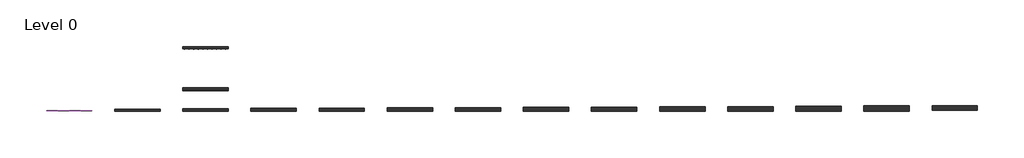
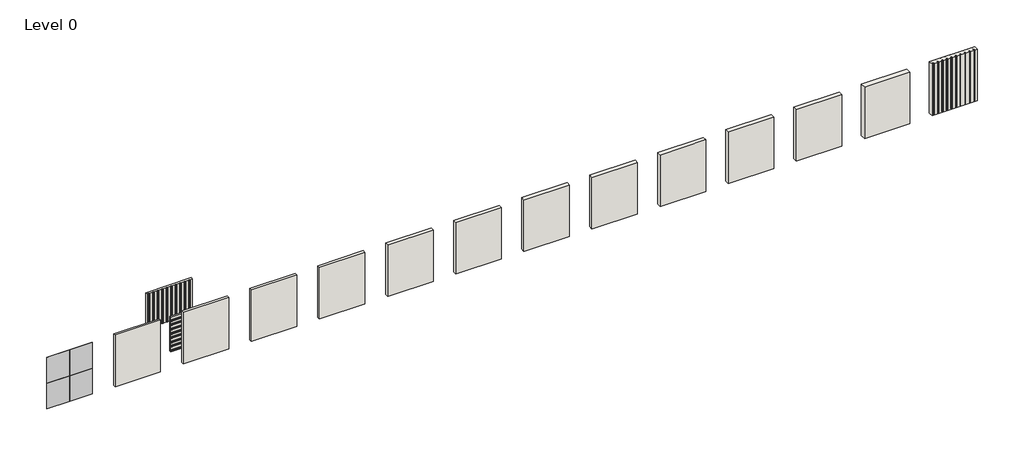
# One storey, incomplete: 15 walls, 4 fasteners, 4 plates.
"""IFC4 building model written with IfcOpenShell, lengths in millimetres."""

from ifc_helpers import new_model, si_unit, origin, origin_with_axes, place, context, project, spatial, polyline, outline, extrude, transform, mapped, element, save
from components import fastener_0524ba7f, fastener_f5cca177, fastener_05b20238, fastener_f3fe0590, fastener_85142412, fastener_c5e04b51, fastener_aac90bd3, fastener_4e99c733, fastener_e6e345ec, fastener_c6fd529a, fastener_6fa0a45e, fastener_47d68e06, metal_stud_substrate_e28d9b51, system_panel_glazed_ae204111

model = new_model("IFC4")

# Units and contexts
model_context = context("Model", 3, world=origin())
ifc_project = project(units=[si_unit("LENGTHUNIT", "METRE", prefix="MILLI")], contexts=[model_context])

# Site, building, storey
site = spatial("IfcSite", under=ifc_project)
building = spatial("IfcBuilding", under=site)
storey = spatial("IfcBuildingStorey", under=building, Name="Level 0", Elevation=0.0)

# Fasteners
placement = place(None, origin())
fastener_shape = fastener_0524ba7f(model_context)
fastener_2_shape = fastener_f5cca177(model_context)
fastener_3_shape = fastener_05b20238(model_context)
fastener_4_shape = fastener_f3fe0590(model_context)
element("IfcFastener", 1, ObjectType="Structural-Supporting-Components_Advanced-Architectural-Products_GreenGirt-Optima-CMH-System : GreenGirt Optima CMH 1.5\"", at=placement, inside=storey, context=model_context, shape_type="MappedRepresentation", body=[
    mapped(fastener_shape, transform((-9509.4866144, 8389.6836599, 0.0), x_axis=(1.0, 0.0, 0.0), y_axis=(0.0, 1.0, 0.0), z_axis=(0.0, 0.0, 1.0))),
    mapped(fastener_2_shape, transform((-9509.4866144, 8389.6836599, 0.0), x_axis=(1.0, 0.0, 0.0), y_axis=(0.0, 1.0, 0.0), z_axis=(0.0, 0.0, 1.0))),
    mapped(fastener_3_shape, transform((-9509.4866144, 8389.6836599, 0.0), x_axis=(1.0, 0.0, 0.0), y_axis=(0.0, 1.0, 0.0), z_axis=(0.0, 0.0, 1.0))),
    mapped(fastener_4_shape, transform((-9509.4866144, 8389.6836599, 0.0), x_axis=(1.0, 0.0, 0.0), y_axis=(0.0, 1.0, 0.0), z_axis=(0.0, 0.0, 1.0))),
])
fastener_5_shape = fastener_85142412(model_context)
fastener_6_shape = fastener_c5e04b51(model_context)
fastener_7_shape = fastener_aac90bd3(model_context)
fastener_8_shape = fastener_4e99c733(model_context)
element("IfcFastener", 2, ObjectType="Structural-Supporting-Components_Advanced-Architectural-Products_GreenGirt-Optima-CMH-System : GreenGirt Optima CMH 1.5\"", at=placement, inside=storey, context=model_context, shape_type="MappedRepresentation", body=[
    mapped(fastener_5_shape, transform((-9509.4866144, 10701.0836599, 0.0), x_axis=(1.0, 0.0, 0.0), y_axis=(0.0, 1.0, 0.0), z_axis=(0.0, 0.0, 1.0))),
    mapped(fastener_6_shape, transform((-9509.4866144, 10701.0836599, 0.0), x_axis=(1.0, 0.0, 0.0), y_axis=(0.0, 1.0, 0.0), z_axis=(0.0, 0.0, 1.0))),
    mapped(fastener_7_shape, transform((-9509.4866144, 10701.0836599, 0.0), x_axis=(1.0, 0.0, 0.0), y_axis=(0.0, 1.0, 0.0), z_axis=(0.0, 0.0, 1.0))),
    mapped(fastener_8_shape, transform((-9509.4866144, 10701.0836599, 0.0), x_axis=(1.0, 0.0, 0.0), y_axis=(0.0, 1.0, 0.0), z_axis=(0.0, 0.0, 1.0))),
])
fastener_9_shape = fastener_e6e345ec(model_context)
fastener_10_shape = fastener_c6fd529a(model_context)
fastener_11_shape = fastener_6fa0a45e(model_context)
fastener_12_shape = fastener_47d68e06(model_context)
element("IfcFastener", 3, ObjectType="Structural-Supporting-Components_Advanced-Architectural-Products_GreenGirt-Optima-CMH-System : GreenGirt Optima CMH 1.5\"", at=placement, inside=storey, context=model_context, shape_type="MappedRepresentation", body=[
    mapped(fastener_9_shape, transform((32399.3543883, 7302.9336599, 0.0), x_axis=(1.0, 0.0, 0.0), y_axis=(0.0, 1.0, 0.0), z_axis=(0.0, 0.0, 1.0))),
    mapped(fastener_10_shape, transform((32399.3543883, 7302.9336599, 0.0), x_axis=(1.0, 0.0, 0.0), y_axis=(0.0, 1.0, 0.0), z_axis=(0.0, 0.0, 1.0))),
    mapped(fastener_11_shape, transform((32399.3543883, 7302.9336599, 0.0), x_axis=(1.0, 0.0, 0.0), y_axis=(0.0, 1.0, 0.0), z_axis=(0.0, 0.0, 1.0))),
    mapped(fastener_12_shape, transform((32399.3543883, 7302.9336599, 0.0), x_axis=(1.0, 0.0, 0.0), y_axis=(0.0, 1.0, 0.0), z_axis=(0.0, 0.0, 1.0))),
])
metal_stud_substrate_shape = metal_stud_substrate_e28d9b51(model_context)
element("IfcFastener", 4, ObjectType="Structural-Supporting-Components_Advanced-Architectural-Products_Metal-Stud-Substrate : Metal Stud Substrate", at=placement, inside=storey, context=model_context, shape_type="MappedRepresentation", body=[
    mapped(metal_stud_substrate_shape, transform((32399.3543883, 7480.7336599, 0.0), x_axis=(1.0, 0.0, 0.0), y_axis=(0.0, 1.0, 0.0), z_axis=(0.0, 0.0, 1.0))),
])

# Plates
system_panel_glazed_shape = system_panel_glazed_ae204111(model_context)
element("IfcPlate", 5, ObjectType="System Panel : Glazed", at=placement, inside=storey, context=model_context, shape_type="MappedRepresentation", body=[
    mapped(system_panel_glazed_shape, transform((-16494.2493421, 7259.0836599, 0.0), x_axis=(1.0, 0.0, 0.0), y_axis=(0.0, 1.0, 0.0), z_axis=(0.0, 0.0, 1.0))),
])
element("IfcPlate", 6, ObjectType="System Panel : Glazed", at=placement, inside=storey, context=model_context, shape_type="MappedRepresentation", body=[
    mapped(system_panel_glazed_shape, transform((-15224.2493421, 7259.0836599, 0.0), x_axis=(1.0, 0.0, 0.0), y_axis=(0.0, 1.0, 0.0), z_axis=(0.0, 0.0, 1.0))),
])
element("IfcPlate", 7, ObjectType="System Panel : Glazed", at=placement, inside=storey, context=model_context, shape_type="MappedRepresentation", body=[
    mapped(system_panel_glazed_shape, transform((-16494.2493421, 7259.0836599, 1524.0), x_axis=(1.0, 0.0, 0.0), y_axis=(0.0, 1.0, 0.0), z_axis=(0.0, 0.0, 1.0))),
])
element("IfcPlate", 8, ObjectType="System Panel : Glazed", at=placement, inside=storey, context=model_context, shape_type="MappedRepresentation", body=[
    mapped(system_panel_glazed_shape, transform((-15224.2493421, 7259.0836599, 1524.0), x_axis=(1.0, 0.0, 0.0), y_axis=(0.0, 1.0, 0.0), z_axis=(0.0, 0.0, 1.0))),
])

# Walls
element("IfcWall", 9, ObjectType="AAP Basic Wall-Ext", at=placement, inside=storey, context=model_context, shape_type="SweptSolid", body=[
    extrude(outline(polyline([(-10779.3679784, 7196.0836599), (-13319.3679784, 7196.0836599), (-13319.3679784, 7308.5836599), (-10779.3679784, 7308.5836599), (-10779.3679784, 7196.0836599)])), origin_with_axes(), (0.0, 0.0, 1.0), 3048.0),
])
element("IfcWall", 10, ObjectType="AAP Basic Wall-Ext", at=placement, inside=storey, context=model_context, shape_type="SweptSolid", body=[
    extrude(outline(polyline([(-6969.3679784, 8389.6836599), (-9509.3679784, 8389.6836599), (-9509.3679784, 8502.1836599), (-6969.3679784, 8502.1836599), (-6969.3679784, 8389.6836599)])), origin_with_axes(), (0.0, 0.0, 1.0), 2032.0),
])
element("IfcWall", 11, ObjectType="AAP Basic Wall-Ext", at=placement, inside=storey, context=model_context, shape_type="SweptSolid", body=[
    extrude(outline(polyline([(-6969.3679784, 10701.0836599), (-9509.3679784, 10701.0836599), (-9509.3679784, 10813.5836599), (-6969.3679784, 10813.5836599), (-6969.3679784, 10701.0836599)])), origin_with_axes(), (0.0, 0.0, 1.0), 2032.0),
])
element("IfcWall", 12, ObjectType="AAP Wall-Ext_1.5\" Fiberglass Batt", at=placement, inside=storey, context=model_context, shape_type="SweptSolid", body=[
    extrude(outline(polyline([(-6969.3679784, 7196.0836599), (-9509.3679784, 7196.0836599), (-9509.3679784, 7346.6836599), (-6969.3679784, 7346.6836599), (-6969.3679784, 7196.0836599)])), origin_with_axes(), (0.0, 0.0, 1.0), 3048.0),
])
element("IfcWall", 13, ObjectType="AAP Wall-Ext_1.5\" Fiberglass Batt, Air", at=placement, inside=storey, context=model_context, shape_type="SweptSolid", body=[
    extrude(outline(polyline([(34939.3543883, 7252.3336599), (32399.3543883, 7252.3336599), (32399.3543883, 7506.1336599), (34939.3543883, 7506.1336599), (34939.3543883, 7252.3336599)])), origin_with_axes(), (0.0, 0.0, 1.0), 3048.0),
])
element("IfcWall", 14, ObjectType="AAP Wall-Ext_2.0\" Fiberglass Batt", at=placement, inside=storey, context=model_context, shape_type="SweptSolid", body=[
    extrude(outline(polyline([(-3159.3679784, 7196.0836599), (-5699.3679784, 7196.0836599), (-5699.3679784, 7359.3836599), (-3159.3679784, 7359.3836599), (-3159.3679784, 7196.0836599)])), origin_with_axes(), (0.0, 0.0, 1.0), 3048.0),
])
element("IfcWall", 15, ObjectType="AAP Wall-Ext_2.5\" Fiberglass Batt", at=placement, inside=storey, context=model_context, shape_type="SweptSolid", body=[
    extrude(outline(polyline([(650.6320216, 7196.0836599), (-1889.3679784, 7196.0836599), (-1889.3679784, 7372.0836599), (650.6320216, 7372.0836599), (650.6320216, 7196.0836599)])), origin_with_axes(), (0.0, 0.0, 1.0), 3048.0),
])
element("IfcWall", 16, ObjectType="AAP Wall-Ext_3.0\" Fiberglass Batt", at=placement, inside=storey, context=model_context, shape_type="SweptSolid", body=[
    extrude(outline(polyline([(4460.6320216, 7196.0836599), (1920.6320216, 7196.0836599), (1920.6320216, 7384.7836599), (4460.6320216, 7384.7836599), (4460.6320216, 7196.0836599)])), origin_with_axes(), (0.0, 0.0, 1.0), 3048.0),
])
element("IfcWall", 17, ObjectType="AAP Wall-Ext_3.5\" Fiberglass Batt", at=placement, inside=storey, context=model_context, shape_type="SweptSolid", body=[
    extrude(outline(polyline([(8270.6320216, 7196.0836599), (5730.6320216, 7196.0836599), (5730.6320216, 7397.4836599), (8270.6320216, 7397.4836599), (8270.6320216, 7196.0836599)])), origin_with_axes(), (0.0, 0.0, 1.0), 3048.0),
])
element("IfcWall", 18, ObjectType="AAP Wall-Ext_4.0\" Fiberglass Batt", at=placement, inside=storey, context=model_context, shape_type="SweptSolid", body=[
    extrude(outline(polyline([(12080.6320216, 7196.0836599), (9540.6320216, 7196.0836599), (9540.6320216, 7410.1836599), (12080.6320216, 7410.1836599), (12080.6320216, 7196.0836599)])), origin_with_axes(), (0.0, 0.0, 1.0), 3048.0),
])
element("IfcWall", 19, ObjectType="AAP Wall-Ext_4.5\" Fiberglass Batt", at=placement, inside=storey, context=model_context, shape_type="SweptSolid", body=[
    extrude(outline(polyline([(15890.6320216, 7196.0836599), (13350.6320216, 7196.0836599), (13350.6320216, 7422.8836599), (15890.6320216, 7422.8836599), (15890.6320216, 7196.0836599)])), origin_with_axes(), (0.0, 0.0, 1.0), 3048.0),
])
element("IfcWall", 20, ObjectType="AAP Wall-Ext_5.0\" Fiberglass Batt", at=placement, inside=storey, context=model_context, shape_type="SweptSolid", body=[
    extrude(outline(polyline([(19700.6320216, 7196.0836599), (17160.6320216, 7196.0836599), (17160.6320216, 7435.5836599), (19700.6320216, 7435.5836599), (19700.6320216, 7196.0836599)])), origin_with_axes(), (0.0, 0.0, 1.0), 3048.0),
])
element("IfcWall", 21, ObjectType="AAP Wall-Ext_5.5\" Fiberglass Batt", at=placement, inside=storey, context=model_context, shape_type="SweptSolid", body=[
    extrude(outline(polyline([(23510.6320216, 7196.0836599), (20970.6320216, 7196.0836599), (20970.6320216, 7448.2836599), (23510.6320216, 7448.2836599), (23510.6320216, 7196.0836599)])), origin_with_axes(), (0.0, 0.0, 1.0), 3048.0),
])
element("IfcWall", 22, ObjectType="AAP Wall-Ext_6.0\" Fiberglass Batt", at=placement, inside=storey, context=model_context, shape_type="SweptSolid", body=[
    extrude(outline(polyline([(27320.6320216, 7196.0836599), (24780.6320216, 7196.0836599), (24780.6320216, 7460.9836599), (27320.6320216, 7460.9836599), (27320.6320216, 7196.0836599)])), origin_with_axes(), (0.0, 0.0, 1.0), 3048.0),
])
element("IfcWall", 23, ObjectType="AAP Wall-Ext_8.0\" Fiberglass Batt", at=placement, inside=storey, context=model_context, shape_type="SweptSolid", body=[
    extrude(outline(polyline([(31130.6320216, 7196.0836599), (28590.6320216, 7196.0836599), (28590.6320216, 7511.7836599), (31130.6320216, 7511.7836599), (31130.6320216, 7196.0836599)])), origin_with_axes(), (0.0, 0.0, 1.0), 3048.0),
])

save(model, "model.ifc")
